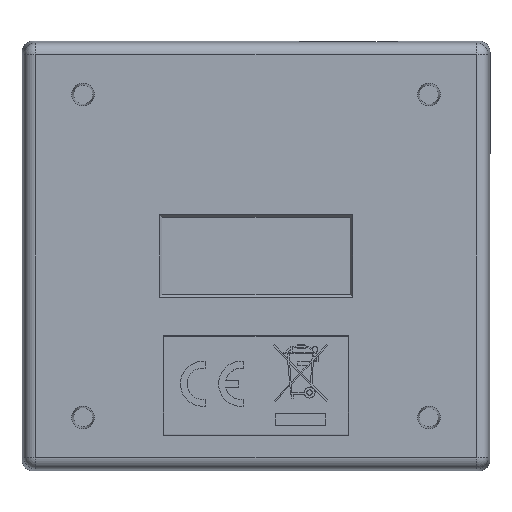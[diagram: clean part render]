
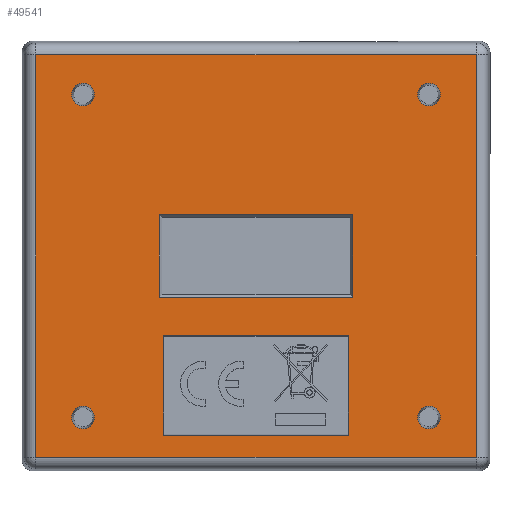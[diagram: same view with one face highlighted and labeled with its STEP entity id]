
A CAD part, front view. The second image highlights one B-rep face of the part: STEP entity #49541.
In plain terms, the highlighted planar face has unit normal (0, -1, 0) as drawn and (0, 0, -1) by its records, which use the part's own axes.
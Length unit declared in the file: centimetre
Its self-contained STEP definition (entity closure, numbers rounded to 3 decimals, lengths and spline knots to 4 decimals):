
#23147=CIRCLE('',#51182,0.1249);
#23148=CIRCLE('',#51183,0.1249);
#23149=CIRCLE('',#51184,0.1249);
#23150=CIRCLE('',#51185,0.1249);
#24052=VERTEX_POINT('',#61327);
#24053=VERTEX_POINT('',#61329);
#24055=VERTEX_POINT('',#61335);
#24057=VERTEX_POINT('',#61341);
#24182=VERTEX_POINT('',#61756);
#24183=VERTEX_POINT('',#61758);
#24185=VERTEX_POINT('',#61764);
#24187=VERTEX_POINT('',#61770);
#24308=VERTEX_POINT('',#62842);
#24309=VERTEX_POINT('',#62844);
#24310=VERTEX_POINT('',#62846);
#24311=VERTEX_POINT('',#62848);
#24312=VERTEX_POINT('',#62850);
#24313=VERTEX_POINT('',#62851);
#24314=VERTEX_POINT('',#62853);
#24315=VERTEX_POINT('',#62855);
#26799=VECTOR('',#53795,1.);
#26802=VECTOR('',#53799,1.);
#26805=VECTOR('',#53803,1.);
#26808=VECTOR('',#53807,1.);
#26967=VECTOR('',#54044,1.);
#26970=VECTOR('',#54048,1.);
#26973=VECTOR('',#54052,1.);
#26976=VECTOR('',#54056,1.);
#27137=VECTOR('',#54289,1.);
#27138=VECTOR('',#54290,1.);
#27139=VECTOR('',#54291,1.);
#27140=VECTOR('',#54292,1.);
#29933=LINE('',#61328,#26799);
#29936=LINE('',#61334,#26802);
#29939=LINE('',#61340,#26805);
#29942=LINE('',#61345,#26808);
#30101=LINE('',#61757,#26967);
#30104=LINE('',#61763,#26970);
#30107=LINE('',#61769,#26973);
#30110=LINE('',#61774,#26976);
#30271=LINE('',#62849,#27137);
#30272=LINE('',#62852,#27138);
#30273=LINE('',#62854,#27139);
#30274=LINE('',#62856,#27140);
#33067=EDGE_CURVE('',#24053,#24052,#29933,.T.);
#33070=EDGE_CURVE('',#24055,#24053,#29936,.T.);
#33073=EDGE_CURVE('',#24057,#24055,#29939,.T.);
#33076=EDGE_CURVE('',#24052,#24057,#29942,.T.);
#33253=EDGE_CURVE('',#24183,#24182,#30101,.F.);
#33256=EDGE_CURVE('',#24185,#24183,#30104,.F.);
#33259=EDGE_CURVE('',#24187,#24185,#30107,.F.);
#33262=EDGE_CURVE('',#24182,#24187,#30110,.F.);
#33443=EDGE_CURVE('',#24308,#24308,#23147,.F.);
#33444=EDGE_CURVE('',#24309,#24309,#23148,.F.);
#33445=EDGE_CURVE('',#24310,#24310,#23149,.F.);
#33446=EDGE_CURVE('',#24311,#24311,#23150,.F.);
#33447=EDGE_CURVE('',#24312,#24313,#30271,.T.);
#33448=EDGE_CURVE('',#24314,#24312,#30272,.T.);
#33449=EDGE_CURVE('',#24315,#24314,#30273,.T.);
#33450=EDGE_CURVE('',#24313,#24315,#30274,.T.);
#38064=ORIENTED_EDGE('',*,*,#33067,.T.);
#38065=ORIENTED_EDGE('',*,*,#33076,.T.);
#38066=ORIENTED_EDGE('',*,*,#33073,.T.);
#38067=ORIENTED_EDGE('',*,*,#33070,.T.);
#38068=ORIENTED_EDGE('',*,*,#33443,.T.);
#38069=ORIENTED_EDGE('',*,*,#33444,.T.);
#38070=ORIENTED_EDGE('',*,*,#33445,.T.);
#38071=ORIENTED_EDGE('',*,*,#33446,.T.);
#38072=ORIENTED_EDGE('',*,*,#33447,.F.);
#38073=ORIENTED_EDGE('',*,*,#33448,.F.);
#38074=ORIENTED_EDGE('',*,*,#33449,.F.);
#38075=ORIENTED_EDGE('',*,*,#33450,.F.);
#38076=ORIENTED_EDGE('',*,*,#33253,.T.);
#38077=ORIENTED_EDGE('',*,*,#33262,.T.);
#38078=ORIENTED_EDGE('',*,*,#33259,.T.);
#38079=ORIENTED_EDGE('',*,*,#33256,.T.);
#46047=EDGE_LOOP('',(#38064,#38065,#38066,#38067));
#46048=EDGE_LOOP('',(#38068));
#46049=EDGE_LOOP('',(#38069));
#46050=EDGE_LOOP('',(#38070));
#46051=EDGE_LOOP('',(#38071));
#46052=EDGE_LOOP('',(#38072,#38073,#38074,#38075));
#46053=EDGE_LOOP('',(#38076,#38077,#38078,#38079));
#47801=FACE_BOUND('',#46047,.T.);
#47802=FACE_BOUND('',#46048,.T.);
#47803=FACE_BOUND('',#46049,.T.);
#47804=FACE_BOUND('',#46050,.T.);
#47805=FACE_BOUND('',#46051,.T.);
#47806=FACE_BOUND('',#46052,.T.);
#47807=FACE_BOUND('',#46053,.T.);
#49541=ADVANCED_FACE('',(#47801,#47802,#47803,#47804,#47805,#47806,#47807),
#77051,.F.);
#51181=AXIS2_PLACEMENT_3D('',#62840,#54280,$);
#51182=AXIS2_PLACEMENT_3D('',#62841,#54281,#54282);
#51183=AXIS2_PLACEMENT_3D('',#62843,#54283,#54284);
#51184=AXIS2_PLACEMENT_3D('',#62845,#54285,#54286);
#51185=AXIS2_PLACEMENT_3D('',#62847,#54287,#54288);
#53795=DIRECTION('',(1.,0.,0.));
#53799=DIRECTION('',(0.,-1.,0.));
#53803=DIRECTION('',(-1.,0.,0.));
#53807=DIRECTION('',(0.,1.,0.));
#54044=DIRECTION('',(-1.,0.,0.));
#54048=DIRECTION('',(0.,1.,0.));
#54052=DIRECTION('',(1.,0.,0.));
#54056=DIRECTION('',(0.,-1.,0.));
#54280=DIRECTION('',(0.,0.,1.));
#54281=DIRECTION('',(0.,0.,-1.));
#54282=DIRECTION('',(-0.125,0.,0.));
#54283=DIRECTION('',(0.,0.,-1.));
#54284=DIRECTION('',(-0.125,0.,0.));
#54285=DIRECTION('',(0.,0.,-1.));
#54286=DIRECTION('',(-0.125,0.,0.));
#54287=DIRECTION('',(0.,0.,-1.));
#54288=DIRECTION('',(-0.125,0.,0.));
#54289=DIRECTION('',(-1.,0.,0.));
#54290=DIRECTION('',(0.,1.,0.));
#54291=DIRECTION('',(1.,0.,0.));
#54292=DIRECTION('',(0.,-1.,0.));
#61327=CARTESIAN_POINT('',(1.0668,-0.4572,-0.0032));
#61328=CARTESIAN_POINT('',(0.5334,-0.4572,-0.0032));
#61329=CARTESIAN_POINT('',(-1.0668,-0.4572,-0.0032));
#61334=CARTESIAN_POINT('',(-1.0668,-0.2286,-0.0032));
#61335=CARTESIAN_POINT('',(-1.0668,0.4572,-0.0032));
#61340=CARTESIAN_POINT('',(-0.5334,0.4572,-0.0032));
#61341=CARTESIAN_POINT('',(1.0668,0.4572,-0.0032));
#61345=CARTESIAN_POINT('',(1.0668,0.2286,-0.0032));
#61756=CARTESIAN_POINT('',(1.0231,-1.9728,-0.0032));
#61757=CARTESIAN_POINT('',(0.,-1.9728,-0.0032));
#61758=CARTESIAN_POINT('',(-1.0231,-1.9728,-0.0032));
#61763=CARTESIAN_POINT('',(-1.0231,-0.3565,-0.0032));
#61764=CARTESIAN_POINT('',(-1.0231,-0.879,-0.0032));
#61769=CARTESIAN_POINT('',(0.,-0.879,-0.0032));
#61770=CARTESIAN_POINT('',(1.0231,-0.879,-0.0032));
#61774=CARTESIAN_POINT('',(1.0231,-0.3565,-0.0032));
#62840=CARTESIAN_POINT('',(0.,0.,-0.0032));
#62841=CARTESIAN_POINT('',(1.905,1.778,-0.0032));
#62842=CARTESIAN_POINT('',(2.0299,1.778,-0.0032));
#62843=CARTESIAN_POINT('',(1.905,-1.778,-0.0032));
#62844=CARTESIAN_POINT('',(2.0299,-1.778,-0.0032));
#62845=CARTESIAN_POINT('',(-1.905,-1.778,-0.0032));
#62846=CARTESIAN_POINT('',(-1.7801,-1.778,-0.0032));
#62847=CARTESIAN_POINT('',(-1.905,1.778,-0.0032));
#62848=CARTESIAN_POINT('',(-1.7801,1.778,-0.0032));
#62849=CARTESIAN_POINT('',(0.,2.2197,-0.0032));
#62850=CARTESIAN_POINT('',(2.4292,2.2197,-0.0032));
#62851=CARTESIAN_POINT('',(-2.4292,2.2197,-0.0032));
#62852=CARTESIAN_POINT('',(2.4292,0.,-0.0032));
#62853=CARTESIAN_POINT('',(2.4292,-2.2197,-0.0032));
#62854=CARTESIAN_POINT('',(0.,-2.2197,-0.0032));
#62855=CARTESIAN_POINT('',(-2.4292,-2.2197,-0.0032));
#62856=CARTESIAN_POINT('',(-2.4292,0.,-0.0032));
#77051=PLANE('',#51181);
